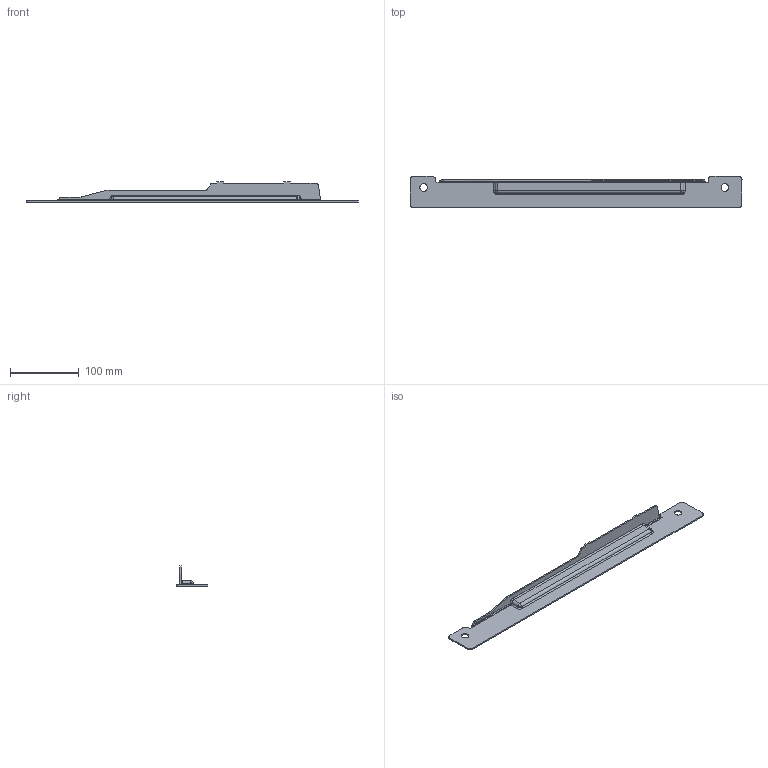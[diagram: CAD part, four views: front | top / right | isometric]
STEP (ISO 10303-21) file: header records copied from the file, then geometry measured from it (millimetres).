
FILE_DESCRIPTION(('CATIA V5 STEP Exchange'),'2;1');
FILE_NAME('F:\福田A6\17-新能源车\数据\变更后数据\A668100000147（SHT0017898）-副司机座椅底支架总成\SHT0017895-副驾底支架左下板\SHT0017895-20250328.stp','2025-03-28T06:20:23+00:00',('none'),('none'),'CATIA Version 5 Release 20 GA (IN-10)','CATIA V5 STEP AP203','none');
FILE_SCHEMA(('CONFIG_CONTROL_DESIGN'));
Length unit declared in the file: millimetre
Products named in the file (1): SHT0017895
Bounding box: 484 x 46 x 30 mm (x, y, z)
Volume: 52019.1 mm3; surface area: 54388.9 mm2
Topology: 1 solids, 1 shells, 108 faces, 292 edges, 166 vertices
Faces by surface type: cylinder 46, plane 30, sphere 16, bspline 8, torus 4, extrusion 4
Entity records: 4198 total; most frequent: CARTESIAN_POINT 1731, ORIENTED_EDGE 544, DIRECTION 408, EDGE_CURVE 272, AXIS2_PLACEMENT_3D 176, VERTEX_POINT 166, VECTOR 140, LINE 136
